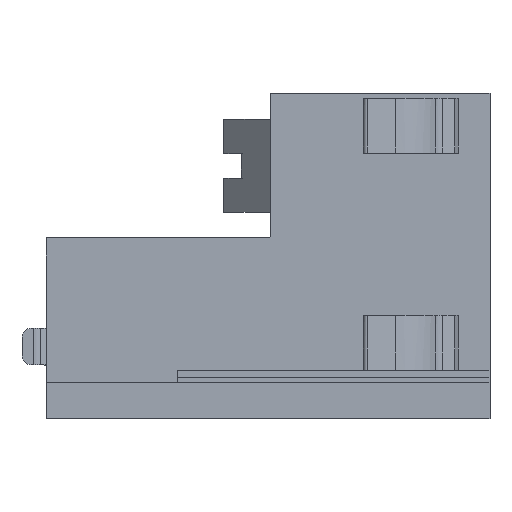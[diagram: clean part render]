
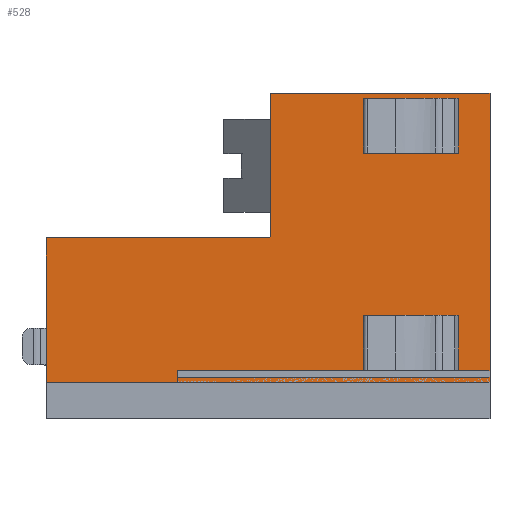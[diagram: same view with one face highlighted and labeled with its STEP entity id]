
A CAD part, left-side view. The second image highlights one B-rep face of the part: STEP entity #528.
In plain terms, the highlighted planar face has unit normal (-1, 0, 0).
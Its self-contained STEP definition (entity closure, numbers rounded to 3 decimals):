
#368=AXIS2_PLACEMENT_3D('Plane Axis2P3D',#365,#366,#367) ;
#395=AXIS2_PLACEMENT_3D('Circle Axis2P3D',#393,#394,$) ;
#365=CARTESIAN_POINT('Axis2P3D Location',(-52.5,0.,0.)) ;
#370=CARTESIAN_POINT('Line Origine',(-52.5,-41.95,21.35)) ;
#374=CARTESIAN_POINT('Vertex',(-52.5,-41.95,-1.65)) ;
#376=CARTESIAN_POINT('Vertex',(-52.5,-41.95,44.35)) ;
#379=CARTESIAN_POINT('Line Origine',(-52.5,-23.736,44.35)) ;
#383=CARTESIAN_POINT('Vertex',(-52.5,-5.521,44.35)) ;
#386=CARTESIAN_POINT('Line Origine',(-52.5,-5.521,32.495)) ;
#390=CARTESIAN_POINT('Vertex',(-52.5,-5.521,20.64)) ;
#393=CARTESIAN_POINT('Axis2P3D Location',(-52.5,-5.221,20.65)) ;
#397=CARTESIAN_POINT('Vertex',(-52.5,-5.221,20.35)) ;
#400=CARTESIAN_POINT('Line Origine',(-52.5,13.164,20.35)) ;
#404=CARTESIAN_POINT('Vertex',(-52.5,31.55,20.35)) ;
#407=CARTESIAN_POINT('Line Origine',(-52.5,31.55,8.35)) ;
#411=CARTESIAN_POINT('Vertex',(-52.5,31.55,-3.65)) ;
#414=CARTESIAN_POINT('Line Origine',(-52.5,-5.2,-3.65)) ;
#418=CARTESIAN_POINT('Vertex',(-52.5,-41.95,-3.65)) ;
#421=CARTESIAN_POINT('Line Origine',(-52.5,-41.95,-3.2)) ;
#425=CARTESIAN_POINT('Vertex',(-52.5,-41.95,-2.75)) ;
#428=CARTESIAN_POINT('Line Origine',(-52.5,-16.05,-2.75)) ;
#432=CARTESIAN_POINT('Vertex',(-52.5,9.85,-2.75)) ;
#435=CARTESIAN_POINT('Line Origine',(-52.5,9.85,-2.2)) ;
#439=CARTESIAN_POINT('Vertex',(-52.5,9.85,-1.65)) ;
#442=CARTESIAN_POINT('Line Origine',(-52.5,-16.05,-1.65)) ;
#460=CARTESIAN_POINT('Line Origine',(-52.5,-35.892,34.4)) ;
#464=CARTESIAN_POINT('Vertex',(-52.5,-35.072,34.4)) ;
#466=CARTESIAN_POINT('Vertex',(-52.5,-36.713,34.4)) ;
#469=CARTESIAN_POINT('Line Origine',(-52.5,-35.072,38.95)) ;
#473=CARTESIAN_POINT('Vertex',(-52.5,-35.072,43.5)) ;
#476=CARTESIAN_POINT('Line Origine',(-52.5,-35.892,43.5)) ;
#480=CARTESIAN_POINT('Vertex',(-52.5,-36.713,43.5)) ;
#483=CARTESIAN_POINT('Line Origine',(-52.5,-36.713,38.95)) ;
#494=CARTESIAN_POINT('Line Origine',(-52.5,-35.892,-1.6)) ;
#498=CARTESIAN_POINT('Vertex',(-52.5,-35.072,-1.6)) ;
#500=CARTESIAN_POINT('Vertex',(-52.5,-36.713,-1.6)) ;
#503=CARTESIAN_POINT('Line Origine',(-52.5,-35.072,2.95)) ;
#507=CARTESIAN_POINT('Vertex',(-52.5,-35.072,7.5)) ;
#510=CARTESIAN_POINT('Line Origine',(-52.5,-35.892,7.5)) ;
#514=CARTESIAN_POINT('Vertex',(-52.5,-36.713,7.5)) ;
#517=CARTESIAN_POINT('Line Origine',(-52.5,-36.713,2.95)) ;
#366=DIRECTION('Axis2P3D Direction',(-1.,0.,0.)) ;
#367=DIRECTION('Axis2P3D XDirection',(0.,0.,1.)) ;
#371=DIRECTION('Vector Direction',(0.,0.,1.)) ;
#380=DIRECTION('Vector Direction',(0.,-1.,0.)) ;
#387=DIRECTION('Vector Direction',(0.,0.,1.)) ;
#394=DIRECTION('Axis2P3D Direction',(-1.,0.,0.)) ;
#401=DIRECTION('Vector Direction',(0.,-1.,0.)) ;
#408=DIRECTION('Vector Direction',(0.,0.,1.)) ;
#415=DIRECTION('Vector Direction',(0.,-1.,0.)) ;
#422=DIRECTION('Vector Direction',(0.,0.,1.)) ;
#429=DIRECTION('Vector Direction',(0.,1.,0.)) ;
#436=DIRECTION('Vector Direction',(0.,0.,1.)) ;
#443=DIRECTION('Vector Direction',(0.,1.,0.)) ;
#461=DIRECTION('Vector Direction',(0.,-1.,0.)) ;
#470=DIRECTION('Vector Direction',(0.,0.,-1.)) ;
#477=DIRECTION('Vector Direction',(0.,-1.,0.)) ;
#484=DIRECTION('Vector Direction',(0.,0.,1.)) ;
#495=DIRECTION('Vector Direction',(0.,-1.,0.)) ;
#504=DIRECTION('Vector Direction',(0.,0.,-1.)) ;
#511=DIRECTION('Vector Direction',(0.,-1.,0.)) ;
#518=DIRECTION('Vector Direction',(0.,0.,1.)) ;
#372=VECTOR('Line Direction',#371,1.) ;
#381=VECTOR('Line Direction',#380,1.) ;
#388=VECTOR('Line Direction',#387,1.) ;
#402=VECTOR('Line Direction',#401,1.) ;
#409=VECTOR('Line Direction',#408,1.) ;
#416=VECTOR('Line Direction',#415,1.) ;
#423=VECTOR('Line Direction',#422,1.) ;
#430=VECTOR('Line Direction',#429,1.) ;
#437=VECTOR('Line Direction',#436,1.) ;
#444=VECTOR('Line Direction',#443,1.) ;
#462=VECTOR('Line Direction',#461,1.) ;
#471=VECTOR('Line Direction',#470,1.) ;
#478=VECTOR('Line Direction',#477,1.) ;
#485=VECTOR('Line Direction',#484,1.) ;
#496=VECTOR('Line Direction',#495,1.) ;
#505=VECTOR('Line Direction',#504,1.) ;
#512=VECTOR('Line Direction',#511,1.) ;
#519=VECTOR('Line Direction',#518,1.) ;
#448=ORIENTED_EDGE('',*,*,#378,.T.) ;
#449=ORIENTED_EDGE('',*,*,#385,.T.) ;
#450=ORIENTED_EDGE('',*,*,#392,.T.) ;
#451=ORIENTED_EDGE('',*,*,#399,.T.) ;
#452=ORIENTED_EDGE('',*,*,#406,.T.) ;
#453=ORIENTED_EDGE('',*,*,#413,.T.) ;
#454=ORIENTED_EDGE('',*,*,#420,.T.) ;
#455=ORIENTED_EDGE('',*,*,#427,.T.) ;
#456=ORIENTED_EDGE('',*,*,#434,.T.) ;
#457=ORIENTED_EDGE('',*,*,#441,.T.) ;
#458=ORIENTED_EDGE('',*,*,#446,.F.) ;
#489=ORIENTED_EDGE('',*,*,#468,.F.) ;
#490=ORIENTED_EDGE('',*,*,#475,.F.) ;
#491=ORIENTED_EDGE('',*,*,#482,.T.) ;
#492=ORIENTED_EDGE('',*,*,#487,.F.) ;
#523=ORIENTED_EDGE('',*,*,#502,.F.) ;
#524=ORIENTED_EDGE('',*,*,#509,.F.) ;
#525=ORIENTED_EDGE('',*,*,#516,.T.) ;
#526=ORIENTED_EDGE('',*,*,#521,.F.) ;
#493=FACE_BOUND('',#488,.T.) ;
#527=FACE_BOUND('',#522,.T.) ;
#528=ADVANCED_FACE('PartBody',(#459,#493,#527),#369,.T.) ;
#396=CIRCLE('generated circle',#395,0.3) ;
#378=EDGE_CURVE('',#375,#377,#373,.T.) ;
#385=EDGE_CURVE('',#377,#384,#382,.F.) ;
#392=EDGE_CURVE('',#384,#391,#389,.F.) ;
#399=EDGE_CURVE('',#391,#398,#396,.F.) ;
#406=EDGE_CURVE('',#398,#405,#403,.F.) ;
#413=EDGE_CURVE('',#405,#412,#410,.F.) ;
#420=EDGE_CURVE('',#412,#419,#417,.T.) ;
#427=EDGE_CURVE('',#419,#426,#424,.T.) ;
#434=EDGE_CURVE('',#426,#433,#431,.T.) ;
#441=EDGE_CURVE('',#433,#440,#438,.T.) ;
#446=EDGE_CURVE('',#375,#440,#445,.T.) ;
#468=EDGE_CURVE('',#465,#467,#463,.T.) ;
#475=EDGE_CURVE('',#474,#465,#472,.T.) ;
#482=EDGE_CURVE('',#474,#481,#479,.T.) ;
#487=EDGE_CURVE('',#467,#481,#486,.T.) ;
#502=EDGE_CURVE('',#499,#501,#497,.T.) ;
#509=EDGE_CURVE('',#508,#499,#506,.T.) ;
#516=EDGE_CURVE('',#508,#515,#513,.T.) ;
#521=EDGE_CURVE('',#501,#515,#520,.T.) ;
#447=EDGE_LOOP('',(#448,#449,#450,#451,#452,#453,#454,#455,#456,#457,#458)) ;
#488=EDGE_LOOP('',(#489,#490,#491,#492)) ;
#522=EDGE_LOOP('',(#523,#524,#525,#526)) ;
#459=FACE_OUTER_BOUND('',#447,.T.) ;
#373=LINE('Line',#370,#372) ;
#382=LINE('Line',#379,#381) ;
#389=LINE('Line',#386,#388) ;
#403=LINE('Line',#400,#402) ;
#410=LINE('Line',#407,#409) ;
#417=LINE('Line',#414,#416) ;
#424=LINE('Line',#421,#423) ;
#431=LINE('Line',#428,#430) ;
#438=LINE('Line',#435,#437) ;
#445=LINE('Line',#442,#444) ;
#463=LINE('Line',#460,#462) ;
#472=LINE('Line',#469,#471) ;
#479=LINE('Line',#476,#478) ;
#486=LINE('Line',#483,#485) ;
#497=LINE('Line',#494,#496) ;
#506=LINE('Line',#503,#505) ;
#513=LINE('Line',#510,#512) ;
#520=LINE('Line',#517,#519) ;
#369=PLANE('',#368) ;
#375=VERTEX_POINT('',#374) ;
#377=VERTEX_POINT('',#376) ;
#384=VERTEX_POINT('',#383) ;
#391=VERTEX_POINT('',#390) ;
#398=VERTEX_POINT('',#397) ;
#405=VERTEX_POINT('',#404) ;
#412=VERTEX_POINT('',#411) ;
#419=VERTEX_POINT('',#418) ;
#426=VERTEX_POINT('',#425) ;
#433=VERTEX_POINT('',#432) ;
#440=VERTEX_POINT('',#439) ;
#465=VERTEX_POINT('',#464) ;
#467=VERTEX_POINT('',#466) ;
#474=VERTEX_POINT('',#473) ;
#481=VERTEX_POINT('',#480) ;
#499=VERTEX_POINT('',#498) ;
#501=VERTEX_POINT('',#500) ;
#508=VERTEX_POINT('',#507) ;
#515=VERTEX_POINT('',#514) ;
